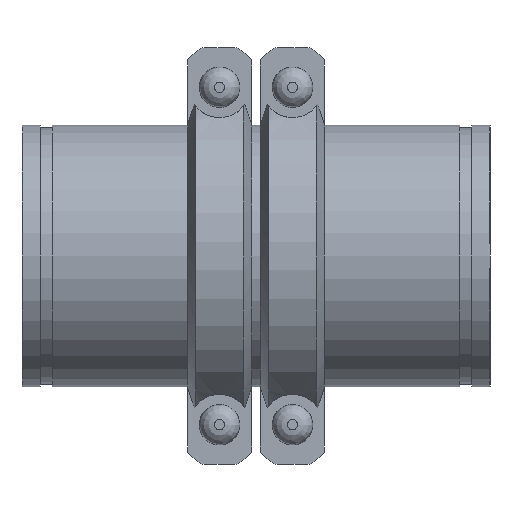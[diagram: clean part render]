
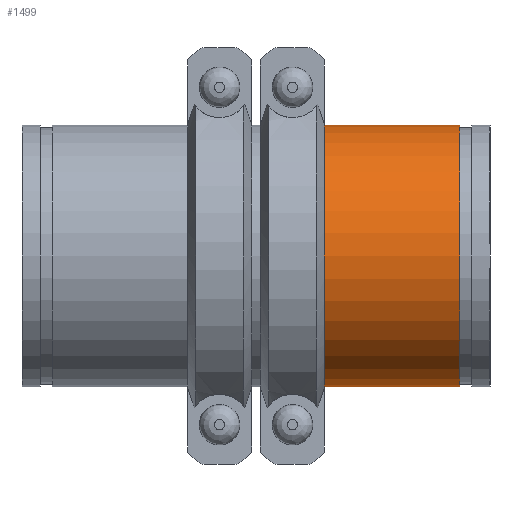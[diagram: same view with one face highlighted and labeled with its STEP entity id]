
A CAD part, front view. The second image highlights one B-rep face of the part: STEP entity #1499.
In plain terms, the highlighted cylindrical face has radius 136.525 mm (diameter 273.05 mm), a full revolution.
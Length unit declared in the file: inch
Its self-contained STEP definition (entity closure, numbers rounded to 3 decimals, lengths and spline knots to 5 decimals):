
#71=LINE('',#2378,#160);
#160=VECTOR('',#1923,5.375);
#249=CYLINDRICAL_SURFACE('',#1701,5.375);
#310=FACE_OUTER_BOUND('',#399,.T.);
#399=EDGE_LOOP('',(#980,#981,#982,#983,#984,#985));
#513=CIRCLE('',#1699,5.375);
#514=CIRCLE('',#1700,5.375);
#515=CIRCLE('',#1702,5.375);
#516=CIRCLE('',#1703,5.375);
#609=VERTEX_POINT('',#2369);
#610=VERTEX_POINT('',#2370);
#611=VERTEX_POINT('',#2374);
#612=VERTEX_POINT('',#2375);
#758=EDGE_CURVE('',#609,#610,#513,.T.);
#759=EDGE_CURVE('',#610,#609,#514,.T.);
#760=EDGE_CURVE('',#611,#612,#515,.T.);
#761=EDGE_CURVE('',#612,#611,#516,.T.);
#762=EDGE_CURVE('',#612,#610,#71,.T.);
#980=ORIENTED_EDGE('',*,*,#760,.F.);
#981=ORIENTED_EDGE('',*,*,#761,.F.);
#982=ORIENTED_EDGE('',*,*,#762,.T.);
#983=ORIENTED_EDGE('',*,*,#759,.T.);
#984=ORIENTED_EDGE('',*,*,#758,.T.);
#985=ORIENTED_EDGE('',*,*,#762,.F.);
#1499=ADVANCED_FACE('',(#310),#249,.T.);
#1699=AXIS2_PLACEMENT_3D('',#2371,#1913,#1914);
#1700=AXIS2_PLACEMENT_3D('',#2372,#1915,#1916);
#1701=AXIS2_PLACEMENT_3D('',#2373,#1917,#1918);
#1702=AXIS2_PLACEMENT_3D('',#2376,#1919,#1920);
#1703=AXIS2_PLACEMENT_3D('',#2377,#1921,#1922);
#1913=DIRECTION('center_axis',(-1.,0.,0.));
#1914=DIRECTION('ref_axis',(0.,0.,1.));
#1915=DIRECTION('center_axis',(-1.,0.,0.));
#1916=DIRECTION('ref_axis',(0.,0.,1.));
#1917=DIRECTION('center_axis',(-1.,0.,0.));
#1918=DIRECTION('ref_axis',(0.,1.,0.));
#1919=DIRECTION('center_axis',(-1.,0.,0.));
#1920=DIRECTION('ref_axis',(0.,0.,1.));
#1921=DIRECTION('center_axis',(-1.,0.,0.));
#1922=DIRECTION('ref_axis',(0.,0.,1.));
#1923=DIRECTION('',(1.,0.,0.));
#2369=CARTESIAN_POINT('',(2.78,5.375,0.));
#2370=CARTESIAN_POINT('',(2.78,-5.375,0.));
#2371=CARTESIAN_POINT('Origin',(2.78,0.,0.));
#2372=CARTESIAN_POINT('Origin',(2.78,0.,0.));
#2373=CARTESIAN_POINT('Origin',(0.,0.,
0.));
#2374=CARTESIAN_POINT('',(-2.78,5.375,0.));
#2375=CARTESIAN_POINT('',(-2.78,-5.375,0.));
#2376=CARTESIAN_POINT('Origin',(-2.78,0.,0.));
#2377=CARTESIAN_POINT('Origin',(-2.78,0.,0.));
#2378=CARTESIAN_POINT('',(0.,-5.375,0.));
